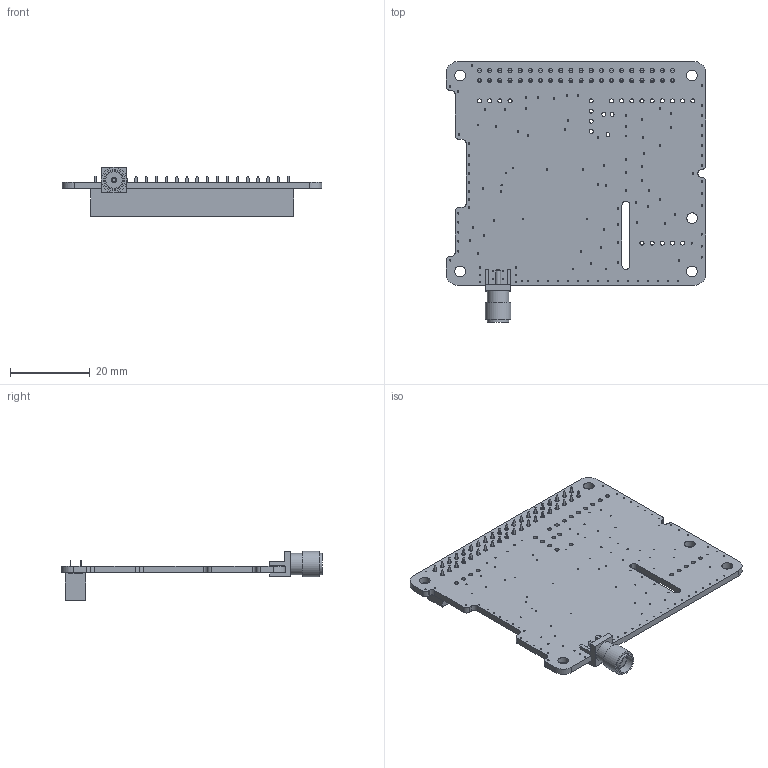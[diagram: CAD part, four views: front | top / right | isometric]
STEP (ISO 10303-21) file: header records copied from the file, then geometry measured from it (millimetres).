
FILE_DESCRIPTION(('KiCad electronic assembly'),'2;1');
FILE_NAME('dAISy HAT.step','2023-07-24T11:10:57',('Pcbnew'),('Kicad'), 'Open CASCADE STEP processor 7.6','KiCad to STEP converter','Unknown' );
FILE_SCHEMA(('AUTOMOTIVE_DESIGN { 1 0 10303 214 1 1 1 1 }'));
Length unit declared in the file: millimetre
Products named in the file (6): dAISy HAT 1; SMA-J-P-H-ST-EM1; SOLID; PinSocket_2x20_P2.54mm_Vertical; _autosave-dAISy HAT PCB
Assembly tree (5 placements, depth 3):
  dAISy HAT 1
    SMA-J-P-H-ST-EM1
      SOLID
    PinSocket_2x20_P2.54mm_Vertical
      SOLID
    _autosave-dAISy HAT PCB
Bounding box: 65 x 65.27 x 12.32 mm (x, y, z)
Volume: 7343.3 mm3; surface area: 10327.9 mm2
Topology: 3 solids, 3 shells, 1530 faces, 4022 edges, 2628 vertices
Faces by surface type: plane 1301, cylinder 228, cone 1
Full cylindrical faces by diameter (mm): 0.3 x126, 0.991 x3, 1.016 x62, 1.27 x2, 2.7 x5, 4.1 x1, 4.25 x1, 4.63 x1, 5.35 x2, 6.33 x1
Entity records: 109622 total; most frequent: CARTESIAN_POINT 18849, DIRECTION 15152, LINE 11142, VECTOR 11142, ORIENTED_EDGE 8044, PCURVE 8044, DEFINITIONAL_REPRESENTATION 8044, EDGE_CURVE 4022
